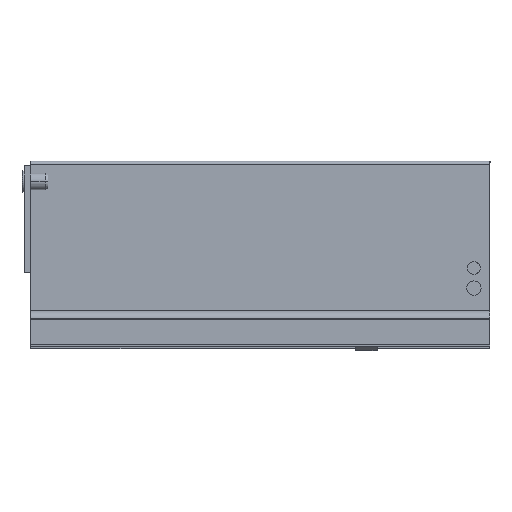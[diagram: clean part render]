
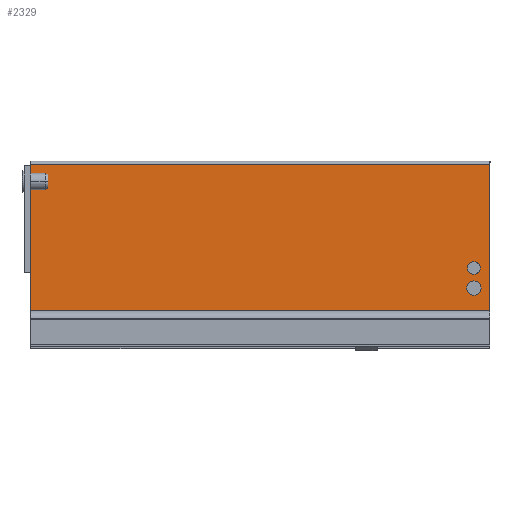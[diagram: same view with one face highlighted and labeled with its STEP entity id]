
A CAD part, left-side view. The second image highlights one B-rep face of the part: STEP entity #2329.
In plain terms, the highlighted planar face has unit normal (-1, 0, 0).
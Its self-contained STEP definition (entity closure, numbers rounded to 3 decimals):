
#43 = FACE_BOUND ( 'NONE', #1113, .T. ) ;
#44 = FACE_BOUND ( 'NONE', #1112, .T. ) ;
#45 = FACE_OUTER_BOUND ( 'NONE', #1110, .T. ) ;
#344 = CIRCLE ( 'NONE', #607, 4.6 ) ;
#346 = CIRCLE ( 'NONE', #608, 4.1 ) ;
#347 = VECTOR ( 'NONE', #1331, 1000. ) ;
#348 = LINE ( 'NONE', #1330, #347 ) ;
#349 = VECTOR ( 'NONE', #1329, 1000. ) ;
#350 = LINE ( 'NONE', #1328, #349 ) ;
#351 = VECTOR ( 'NONE', #1327, 1000. ) ;
#352 = LINE ( 'NONE', #1326, #351 ) ;
#353 = VECTOR ( 'NONE', #1325, 1000. ) ;
#354 = LINE ( 'NONE', #1324, #353 ) ;
#471 = CIRCLE ( 'NONE', #625, 4.6 ) ;
#479 = CIRCLE ( 'NONE', #627, 4.1 ) ;
#538 = AXIS2_PLACEMENT_3D ( 'NONE', #1859, #1860, #1861 ) ;
#607 = AXIS2_PLACEMENT_3D ( 'NONE', #1335, #1336, #1337 ) ;
#608 = AXIS2_PLACEMENT_3D ( 'NONE', #1332, #1333, #1334 ) ;
#625 = AXIS2_PLACEMENT_3D ( 'NONE', #2103, #2102, #2101 ) ;
#627 = AXIS2_PLACEMENT_3D ( 'NONE', #2116, #2115, #2114 ) ;
#661 = EDGE_CURVE ( 'NONE', #2041, #2158, #479, .T. ) ;
#665 = EDGE_CURVE ( 'NONE', #2165, #2030, #471, .T. ) ;
#727 = EDGE_CURVE ( 'NONE', #2195, #2141, #354, .T. ) ;
#728 = EDGE_CURVE ( 'NONE', #2141, #2163, #352, .T. ) ;
#729 = EDGE_CURVE ( 'NONE', #2190, #2163, #350, .T. ) ;
#730 = EDGE_CURVE ( 'NONE', #2195, #2190, #348, .T. ) ;
#731 = EDGE_CURVE ( 'NONE', #2158, #2041, #346, .T. ) ;
#732 = EDGE_CURVE ( 'NONE', #2030, #2165, #344, .T. ) ;
#1110 = EDGE_LOOP ( 'NONE', ( #1163, #1164, #1165, #1166 ) ) ;
#1112 = EDGE_LOOP ( 'NONE', ( #1167, #1168 ) ) ;
#1113 = EDGE_LOOP ( 'NONE', ( #1169, #1170 ) ) ;
#1163 = ORIENTED_EDGE ( 'NONE', *, *, #727, .T. ) ;
#1164 = ORIENTED_EDGE ( 'NONE', *, *, #728, .T. ) ;
#1165 = ORIENTED_EDGE ( 'NONE', *, *, #729, .F. ) ;
#1166 = ORIENTED_EDGE ( 'NONE', *, *, #730, .F. ) ;
#1167 = ORIENTED_EDGE ( 'NONE', *, *, #731, .F. ) ;
#1168 = ORIENTED_EDGE ( 'NONE', *, *, #661, .F. ) ;
#1169 = ORIENTED_EDGE ( 'NONE', *, *, #732, .F. ) ;
#1170 = ORIENTED_EDGE ( 'NONE', *, *, #665, .F. ) ;
#1324 = CARTESIAN_POINT ( 'NONE',  ( -21.5, 297., 100. ) ) ;
#1325 = DIRECTION ( 'NONE',  ( 0., 0., -1. ) ) ;
#1326 = CARTESIAN_POINT ( 'NONE',  ( -21.5, 144.577, 5.395 ) ) ;
#1327 = DIRECTION ( 'NONE',  ( 0., -1., 0. ) ) ;
#1328 = CARTESIAN_POINT ( 'NONE',  ( -21.5, 0., 100. ) ) ;
#1329 = DIRECTION ( 'NONE',  ( 0., 0., -1. ) ) ;
#1330 = CARTESIAN_POINT ( 'NONE',  ( -21.5, 144.577, 100. ) ) ;
#1331 = DIRECTION ( 'NONE',  ( 0., -1., 0. ) ) ;
#1332 = CARTESIAN_POINT ( 'NONE',  ( -21.5, 10.4, 33. ) ) ;
#1333 = DIRECTION ( 'NONE',  ( -1., 0., 0. ) ) ;
#1334 = DIRECTION ( 'NONE',  ( 0., 0., -1. ) ) ;
#1335 = CARTESIAN_POINT ( 'NONE',  ( -21.5, 10.4, 20. ) ) ;
#1336 = DIRECTION ( 'NONE',  ( -1., 0., 0. ) ) ;
#1337 = DIRECTION ( 'NONE',  ( 0., 0., -1. ) ) ;
#1699 = CARTESIAN_POINT ( 'NONE',  ( -21.5, 10.4, 24.6 ) ) ;
#1707 = CARTESIAN_POINT ( 'NONE',  ( -21.5, 10.4, 28.9 ) ) ;
#1724 = CARTESIAN_POINT ( 'NONE',  ( -21.5, 297., 5.395 ) ) ;
#1731 = CARTESIAN_POINT ( 'NONE',  ( -21.5, 10.4, 37.1 ) ) ;
#1736 = CARTESIAN_POINT ( 'NONE',  ( -21.5, 0., 5.395 ) ) ;
#1738 = CARTESIAN_POINT ( 'NONE',  ( -21.5, 10.4, 15.4 ) ) ;
#1752 = CARTESIAN_POINT ( 'NONE',  ( -21.5, 0., 100. ) ) ;
#1757 = CARTESIAN_POINT ( 'NONE',  ( -21.5, 297., 100. ) ) ;
#1858 = PLANE ( 'NONE',  #538 ) ;
#1859 = CARTESIAN_POINT ( 'NONE',  ( -21.5, 297., 100. ) ) ;
#1860 = DIRECTION ( 'NONE',  ( -1., 0., 0. ) ) ;
#1861 = DIRECTION ( 'NONE',  ( 0., 0., -1. ) ) ;
#2030 = VERTEX_POINT ( 'NONE', #1699 ) ;
#2041 = VERTEX_POINT ( 'NONE', #1707 ) ;
#2101 = DIRECTION ( 'NONE',  ( 0., 0., -1. ) ) ;
#2102 = DIRECTION ( 'NONE',  ( -1., 0., 0. ) ) ;
#2103 = CARTESIAN_POINT ( 'NONE',  ( -21.5, 10.4, 20. ) ) ;
#2114 = DIRECTION ( 'NONE',  ( 0., 0., -1. ) ) ;
#2115 = DIRECTION ( 'NONE',  ( -1., 0., 0. ) ) ;
#2116 = CARTESIAN_POINT ( 'NONE',  ( -21.5, 10.4, 33. ) ) ;
#2141 = VERTEX_POINT ( 'NONE', #1724 ) ;
#2158 = VERTEX_POINT ( 'NONE', #1731 ) ;
#2163 = VERTEX_POINT ( 'NONE', #1736 ) ;
#2165 = VERTEX_POINT ( 'NONE', #1738 ) ;
#2190 = VERTEX_POINT ( 'NONE', #1752 ) ;
#2195 = VERTEX_POINT ( 'NONE', #1757 ) ;
#2329 = ADVANCED_FACE ( 'NONE', ( #45, #44, #43 ), #1858, .T. ) ;
